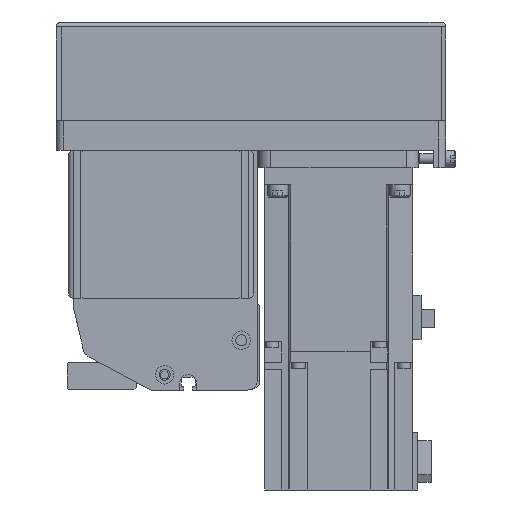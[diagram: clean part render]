
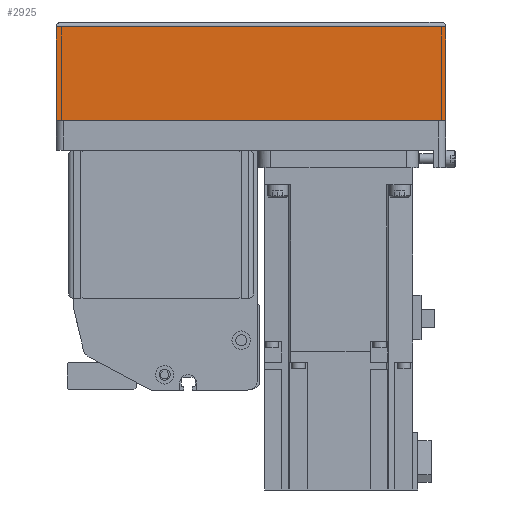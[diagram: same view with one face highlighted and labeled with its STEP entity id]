
A CAD part, left-side view. The second image highlights one B-rep face of the part: STEP entity #2925.
In plain terms, the highlighted planar face has unit normal (-1, 0, 0) as drawn and (0, -1, 0) by its records, which use the part's own axes.
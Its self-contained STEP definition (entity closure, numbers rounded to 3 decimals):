
#2925 = ADVANCED_FACE( '', ( #6083 ), #6084, .T. );
#6083 = FACE_OUTER_BOUND( '', #9328, .T. );
#6084 = PLANE( '', #9329 );
#9328 = EDGE_LOOP( '', ( #17573, #17574, #17575, #17576 ) );
#9329 = AXIS2_PLACEMENT_3D( '', #17577, #17578, #17579 );
#17573 = ORIENTED_EDGE( '', *, *, #21639, .F. );
#17574 = ORIENTED_EDGE( '', *, *, #21346, .F. );
#17575 = ORIENTED_EDGE( '', *, *, #20840, .T. );
#17576 = ORIENTED_EDGE( '', *, *, #21219, .T. );
#17577 = CARTESIAN_POINT( '', ( -158., -39., -12.1 ) );
#17578 = DIRECTION( '', ( 0., -1., 0. ) );
#17579 = DIRECTION( '', ( 0., 0., -1. ) );
#20840 = EDGE_CURVE( '', #24621, #25184, #25701, .T. );
#21219 = EDGE_CURVE( '', #25184, #24606, #26193, .T. );
#21346 = EDGE_CURVE( '', #24621, #26338, #26339, .T. );
#21639 = EDGE_CURVE( '', #26338, #24606, #26669, .T. );
#24606 = VERTEX_POINT( '', #30870 );
#24621 = VERTEX_POINT( '', #30890 );
#25184 = VERTEX_POINT( '', #31875 );
#25701 = LINE( '', #32620, #32621 );
#26193 = LINE( '', #33480, #33481 );
#26338 = VERTEX_POINT( '', #33675 );
#26339 = LINE( '', #33676, #33677 );
#26669 = LINE( '', #34126, #34127 );
#30870 = CARTESIAN_POINT( '', ( 0., -39., -50. ) );
#30890 = CARTESIAN_POINT( '', ( -158., -39., -12.1 ) );
#31875 = CARTESIAN_POINT( '', ( -158., -39., -50. ) );
#32620 = CARTESIAN_POINT( '', ( -158., -39., -12.1 ) );
#32621 = VECTOR( '', #37323, 1000. );
#33480 = CARTESIAN_POINT( '', ( -158., -39., -50. ) );
#33481 = VECTOR( '', #37719, 1000. );
#33675 = CARTESIAN_POINT( '', ( 0., -39., -12.1 ) );
#33676 = CARTESIAN_POINT( '', ( -158., -39., -12.1 ) );
#33677 = VECTOR( '', #37826, 1000. );
#34126 = CARTESIAN_POINT( '', ( 0., -39., -12.1 ) );
#34127 = VECTOR( '', #38051, 1000. );
#37323 = DIRECTION( '', ( 0., 0., -1. ) );
#37719 = DIRECTION( '', ( 1., 0., 0. ) );
#37826 = DIRECTION( '', ( 1., 0., 0. ) );
#38051 = DIRECTION( '', ( 0., 0., -1. ) );
